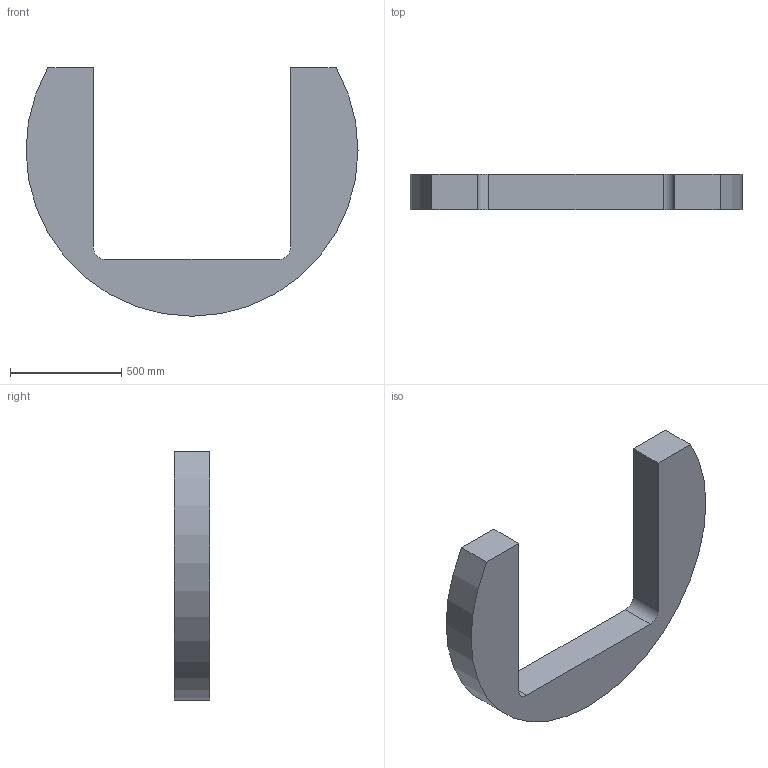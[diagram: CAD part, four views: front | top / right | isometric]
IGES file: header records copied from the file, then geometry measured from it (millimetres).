
Start section:  PTC IGES file: bpu_horseshoe_front.igs
Global section: file name: bpu_horseshoe_front.igs; native system: Pro/ENGINEER by Parametric Technology Corporation; preprocessor: 1999260; author: oshatz; organization: Unknown; date: 000922.101846; units: millimetre
Bounding box: 1493.99 x 159 x 1118 mm (x, y, z)
Surface area: 2257087.3 mm2 (no closed solid volume)
Topology: 0 solids, 0 shells, 10 faces, 48 edges, 48 vertices
Faces by surface type: bspline 7, revolution 3
